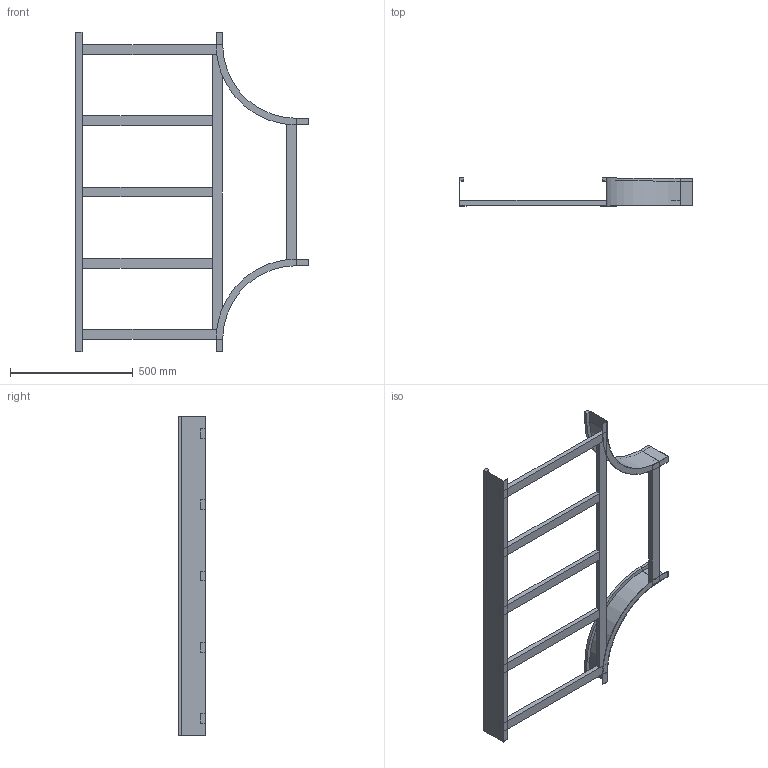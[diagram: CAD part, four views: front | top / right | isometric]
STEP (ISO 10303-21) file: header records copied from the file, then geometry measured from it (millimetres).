
FILE_DESCRIPTION (( 'STEP AP214' ), '1' );
FILE_NAME ('B2_15B3J600.step', '2025-02-21T15:52:11', ( '' ), ( '' ), 'SwSTEP 2.0', 'SolidWorks 2023', '' );
FILE_SCHEMA (( 'AUTOMOTIVE_DESIGN' ));
Length unit declared in the file: millimetre
Products named in the file (6): B2_LONGH.RETT_H112.5_R300+600; TRAVERSINO_600; TRAVERSINO_INTERMEDIO_R300+600; B2_LONGH.INTERNO 90°_H112.5_R300; B2_TRAVERSINO_LONG._R300+600; B2_15B3J600
Assembly tree (10 placements, depth 2):
  B2_15B3J600
    B2_LONGH.INTERNO 90°_H112.5_R300  x2
    B2_LONGH.RETT_H112.5_R300+600
    TRAVERSINO_600  x3
    B2_TRAVERSINO_LONG._R300+600
    TRAVERSINO_INTERMEDIO_R300+600  x3
Bounding box: 950 x 112.5 x 1300 mm (x, y, z)
Volume: 4854188.5 mm3; surface area: 1331908.7 mm2
Topology: 10 solids, 10 shells, 104 faces, 220 edges, 136 vertices
Faces by surface type: plane 96, cylinder 8
Entity records: 1647 total; most frequent: DIRECTION 258, CARTESIAN_POINT 255, ORIENTED_EDGE 232, EDGE_CURVE 116, LINE 108, VECTOR 108, AXIS2_PLACEMENT_3D 75, VERTEX_POINT 72
